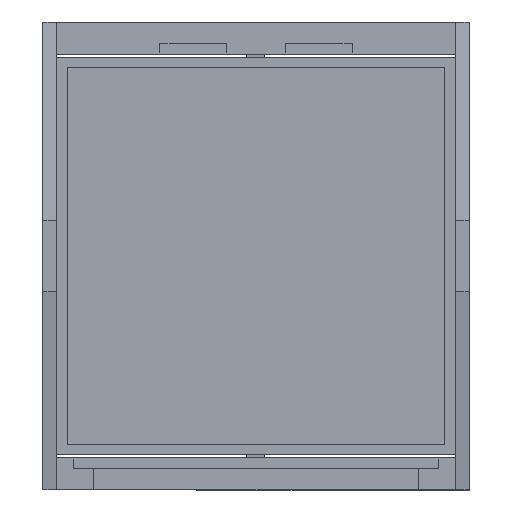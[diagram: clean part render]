
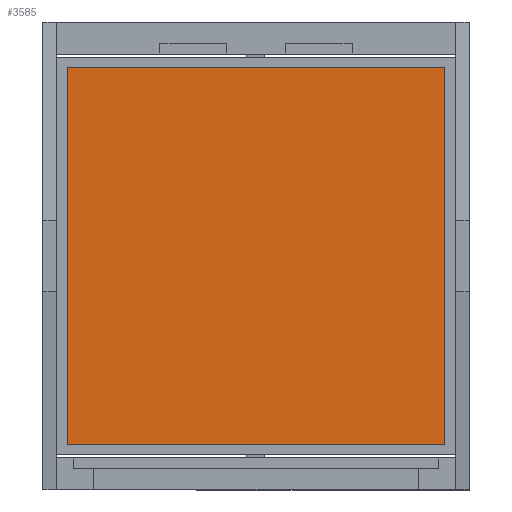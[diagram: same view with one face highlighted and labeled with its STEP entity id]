
A CAD part, front view. The second image highlights one B-rep face of the part: STEP entity #3585.
In plain terms, the highlighted planar face has unit normal (0, -1, 0).
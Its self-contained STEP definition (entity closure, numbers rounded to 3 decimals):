
#645 = DIRECTION ( 'NONE',  ( 0., 1., 0. ) ) ;
#740 = ORIENTED_EDGE ( 'NONE', *, *, #1016, .F. ) ;
#870 = EDGE_CURVE ( 'NONE', #1385, #8040, #1135, .T. ) ;
#1016 = EDGE_CURVE ( 'NONE', #8480, #1385, #3228, .T. ) ;
#1135 = LINE ( 'NONE', #7900, #8897 ) ;
#1385 = VERTEX_POINT ( 'NONE', #6517 ) ;
#1944 = PLANE ( 'NONE',  #4208 ) ;
#2490 = CARTESIAN_POINT ( 'NONE',  ( -29.237, -5.415, -11.533 ) ) ;
#2496 = DIRECTION ( 'NONE',  ( -1., 0., 0. ) ) ;
#2581 = VECTOR ( 'NONE', #5409, 1000. ) ;
#2807 = DIRECTION ( 'NONE',  ( 0., 0., 1. ) ) ;
#2881 = VECTOR ( 'NONE', #6368, 1000. ) ;
#3228 = LINE ( 'NONE', #2490, #2581 ) ;
#3370 = LINE ( 'NONE', #7962, #2881 ) ;
#3585 = ADVANCED_FACE ( 'NONE', ( #5768 ), #1944, .F. ) ;
#4208 = AXIS2_PLACEMENT_3D ( 'NONE', #7945, #645, #2807 ) ;
#4310 = CARTESIAN_POINT ( 'NONE',  ( -29.237, -5.415, -11.533 ) ) ;
#5409 = DIRECTION ( 'NONE',  ( 0., 0., 1. ) ) ;
#5537 = EDGE_LOOP ( 'NONE', ( #740, #6192, #7257, #8212 ) ) ;
#5768 = FACE_OUTER_BOUND ( 'NONE', #5537, .T. ) ;
#5992 = EDGE_CURVE ( 'NONE', #8535, #8480, #7005, .T. ) ;
#6192 = ORIENTED_EDGE ( 'NONE', *, *, #5992, .F. ) ;
#6356 = EDGE_CURVE ( 'NONE', #8040, #8535, #3370, .T. ) ;
#6368 = DIRECTION ( 'NONE',  ( 0., 0., -1. ) ) ;
#6517 = CARTESIAN_POINT ( 'NONE',  ( -29.237, -5.415, 28.467 ) ) ;
#6958 = CARTESIAN_POINT ( 'NONE',  ( -29.237, -5.415, -11.533 ) ) ;
#7005 = LINE ( 'NONE', #6958, #8564 ) ;
#7163 = DIRECTION ( 'NONE',  ( 1., 0., 0. ) ) ;
#7257 = ORIENTED_EDGE ( 'NONE', *, *, #6356, .F. ) ;
#7900 = CARTESIAN_POINT ( 'NONE',  ( -29.237, -5.415, 28.467 ) ) ;
#7945 = CARTESIAN_POINT ( 'NONE',  ( -29.237, -5.415, 28.467 ) ) ;
#7962 = CARTESIAN_POINT ( 'NONE',  ( 10.763, -5.415, -11.533 ) ) ;
#8040 = VERTEX_POINT ( 'NONE', #9077 ) ;
#8212 = ORIENTED_EDGE ( 'NONE', *, *, #870, .F. ) ;
#8480 = VERTEX_POINT ( 'NONE', #4310 ) ;
#8535 = VERTEX_POINT ( 'NONE', #8895 ) ;
#8564 = VECTOR ( 'NONE', #2496, 1000. ) ;
#8895 = CARTESIAN_POINT ( 'NONE',  ( 10.763, -5.415, -11.533 ) ) ;
#8897 = VECTOR ( 'NONE', #7163, 1000. ) ;
#9077 = CARTESIAN_POINT ( 'NONE',  ( 10.763, -5.415, 28.467 ) ) ;
